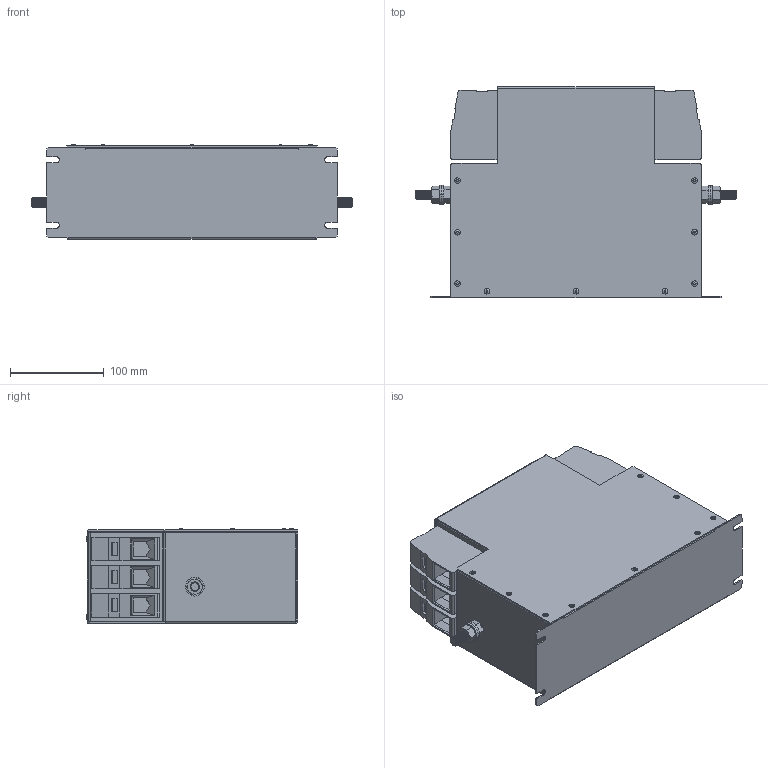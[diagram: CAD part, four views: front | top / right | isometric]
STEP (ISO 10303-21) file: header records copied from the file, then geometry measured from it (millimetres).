
FILE_DESCRIPTION (( 'STEP AP203' ), '1' );
FILE_NAME ('NF-CF-160(H size).STEP', '2025-02-26T17:34:03', ( '' ), ( '' ), 'SwSTEP 2.0', 'SolidWorks 2017', '' );
FILE_SCHEMA (( 'CONFIG_CONTROL_DESIGN' ));
Length unit declared in the file: millimetre
Products named in the file (9): HDFK-95 (no flanges); NF-CF-160(H size); NF-CF-160(H case); NF-CF-160(H lid); flat washer narrow_am_B18.22M - Plain washer, 10 mm, narrow; hex nut style 1_am_B18.2.4.1M - Hex nut, Style 1,  M10 x 1.5, with 16mm WAF --D-N; hex screw_am_B18.6.7M - M10 x 1.5 x 30 Indented HHMS --30S; M10x30 Earth post; 3.5mm Rivet
Assembly tree (27 placements, depth 3):
  NF-CF-160(H size)
    NF-CF-160(H case)
    NF-CF-160(H lid)
    3.5mm Rivet  x13
    HDFK-95 (no flanges)  x6
    M10x30 Earth post  x2
      flat washer narrow_am_B18.22M - Plain washer, 10 mm, narrow
      hex nut style 1_am_B18.2.4.1M - Hex nut, Style 1,  M10 x 1.5, with 16mm WAF --D-N
      hex screw_am_B18.6.7M - M10 x 1.5 x 30 Indented HHMS --30S
Bounding box: 342 x 226 x 101 mm (x, y, z)
Volume: 799872 mm3; surface area: 555268.7 mm2
Topology: 29 solids, 29 shells, 1211 faces, 2930 edges, 1836 vertices
Faces by surface type: plane 663, cylinder 292, cone 226, torus 26, bspline 4
Entity records: 17450 total; most frequent: CARTESIAN_POINT 3085, DIRECTION 2789, ORIENTED_EDGE 2614, EDGE_CURVE 1307, AXIS2_PLACEMENT_3D 972, VECTOR 845, LINE 845, VERTEX_POINT 804
